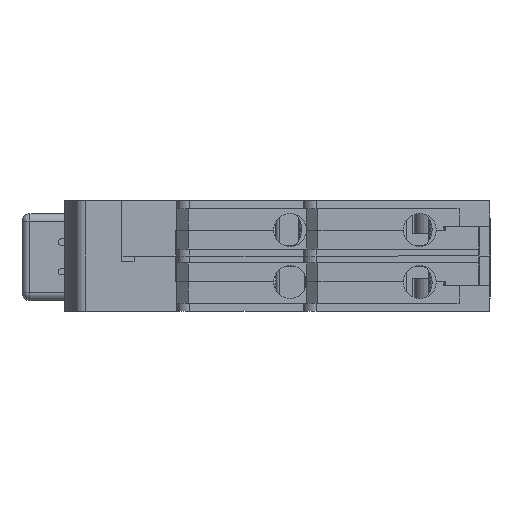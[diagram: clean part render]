
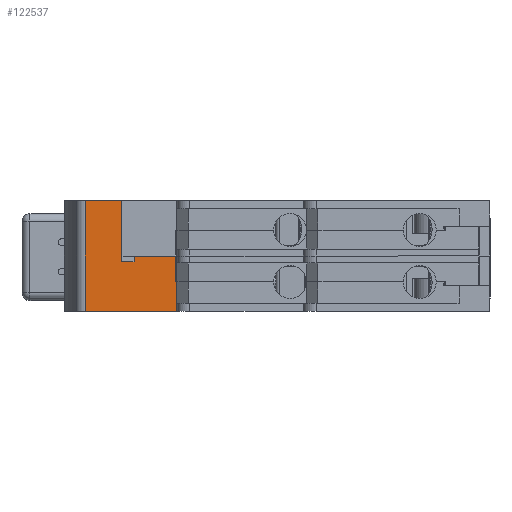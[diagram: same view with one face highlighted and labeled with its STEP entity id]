
A CAD part, left-side view. The second image highlights one B-rep face of the part: STEP entity #122537.
In plain terms, the highlighted planar face has unit normal (-1, 0, 0).
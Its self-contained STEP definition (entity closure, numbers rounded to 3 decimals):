
#210 = CARTESIAN_POINT ( 'NONE',  ( -22.5, 22.3, -4.1 ) ) ;
#6657 = EDGE_CURVE ( 'NONE', #36772, #6662, #123955, .T. ) ;
#6662 = VERTEX_POINT ( 'NONE', #123997 ) ;
#11594 = VERTEX_POINT ( 'NONE', #78171 ) ;
#11625 = VERTEX_POINT ( 'NONE', #78270 ) ;
#11770 = EDGE_CURVE ( 'NONE', #11594, #11625, #79286, .T. ) ;
#25260 = CARTESIAN_POINT ( 'NONE',  ( -22.5, 36.5, 8.75 ) ) ;
#25271 = CARTESIAN_POINT ( 'NONE',  ( -22.5, 30.79, 8.75 ) ) ;
#25272 = DIRECTION ( 'NONE',  ( 0., -1., 0. ) ) ;
#25273 = VECTOR ( 'NONE', #25272, 1000. ) ;
#25274 = CARTESIAN_POINT ( 'NONE',  ( -22.5, 37.49, 8.75 ) ) ;
#25275 = LINE ( 'NONE', #25274, #25273 ) ;
#36772 = VERTEX_POINT ( 'NONE', #210 ) ;
#78171 = CARTESIAN_POINT ( 'NONE',  ( -22.5, 28.79, 0. ) ) ;
#78270 = CARTESIAN_POINT ( 'NONE',  ( -22.5, 22.3, 0. ) ) ;
#79280 = DIRECTION ( 'NONE',  ( 0., -1., 0. ) ) ;
#79282 = VECTOR ( 'NONE', #79280, 1000. ) ;
#79284 = CARTESIAN_POINT ( 'NONE',  ( -22.5, 37.49, 0. ) ) ;
#79286 = LINE ( 'NONE', #79284, #79282 ) ;
#79422 = DIRECTION ( 'NONE',  ( 0., 0., -1. ) ) ;
#79424 = VECTOR ( 'NONE', #79422, 1000. ) ;
#79426 = CARTESIAN_POINT ( 'NONE',  ( -22.5, 36.5, -8.75 ) ) ;
#79427 = LINE ( 'NONE', #79426, #79424 ) ;
#79655 = CARTESIAN_POINT ( 'NONE',  ( -22.5, 28.79, -0.9 ) ) ;
#79656 = DIRECTION ( 'NONE',  ( 0., 0., 1. ) ) ;
#79657 = VECTOR ( 'NONE', #79656, 1000. ) ;
#79658 = CARTESIAN_POINT ( 'NONE',  ( -22.5, 28.79, -0.9 ) ) ;
#79660 = LINE ( 'NONE', #79658, #79657 ) ;
#79694 = DIRECTION ( 'NONE',  ( 0., -1., 0. ) ) ;
#79695 = VECTOR ( 'NONE', #79694, 1000. ) ;
#79696 = CARTESIAN_POINT ( 'NONE',  ( -22.5, 30.79, -0.9 ) ) ;
#79698 = LINE ( 'NONE', #79696, #79695 ) ;
#79702 = DIRECTION ( 'NONE',  ( 0., 0., -1. ) ) ;
#79703 = VECTOR ( 'NONE', #79702, 1000. ) ;
#79704 = CARTESIAN_POINT ( 'NONE',  ( -22.5, 22.3, 0. ) ) ;
#79706 = LINE ( 'NONE', #79704, #79703 ) ;
#79721 = DIRECTION ( 'NONE',  ( 0., 0., -1. ) ) ;
#79722 = VECTOR ( 'NONE', #79721, 1000. ) ;
#79724 = CARTESIAN_POINT ( 'NONE',  ( -22.5, 30.79, 8.75 ) ) ;
#79725 = LINE ( 'NONE', #79724, #79722 ) ;
#79752 = FACE_OUTER_BOUND ( 'NONE', #122543, .T. ) ;
#79757 = DIRECTION ( 'NONE',  ( 0., 0., -1. ) ) ;
#79758 = VECTOR ( 'NONE', #79757, 1000. ) ;
#79760 = CARTESIAN_POINT ( 'NONE',  ( -22.5, 22., -7.45 ) ) ;
#79761 = LINE ( 'NONE', #79760, #79758 ) ;
#79796 = CARTESIAN_POINT ( 'NONE',  ( -22.5, 30.79, -0.9 ) ) ;
#79819 = DIRECTION ( 'NONE',  ( 0., 0., -1. ) ) ;
#79821 = DIRECTION ( 'NONE',  ( 1., 0., 0. ) ) ;
#79822 = CARTESIAN_POINT ( 'NONE',  ( -22.5, 22., -7.45 ) ) ;
#79823 = AXIS2_PLACEMENT_3D ( 'NONE', #79822, #79821, #79819 ) ;
#79826 = PLANE ( 'NONE',  #79823 ) ;
#87493 = CARTESIAN_POINT ( 'NONE',  ( -22.5, 22., -8.75 ) ) ;
#87499 = CARTESIAN_POINT ( 'NONE',  ( -22.5, 36.5, -8.75 ) ) ;
#87525 = DIRECTION ( 'NONE',  ( 0., -1., 0. ) ) ;
#87526 = VECTOR ( 'NONE', #87525, 1000. ) ;
#87527 = CARTESIAN_POINT ( 'NONE',  ( -22.5, 22., -8.75 ) ) ;
#87529 = LINE ( 'NONE', #87527, #87526 ) ;
#105010 = EDGE_CURVE ( 'NONE', #105024, #105013, #25275, .T. ) ;
#105013 = VERTEX_POINT ( 'NONE', #25271 ) ;
#105024 = VERTEX_POINT ( 'NONE', #25260 ) ;
#122475 = ORIENTED_EDGE ( 'NONE', *, *, #122476, .T. ) ;
#122476 = EDGE_CURVE ( 'NONE', #105024, #123803, #79427, .T. ) ;
#122477 = ORIENTED_EDGE ( 'NONE', *, *, #105010, .F. ) ;
#122506 = ORIENTED_EDGE ( 'NONE', *, *, #6657, .F. ) ;
#122507 = ORIENTED_EDGE ( 'NONE', *, *, #122526, .F. ) ;
#122508 = EDGE_CURVE ( 'NONE', #122509, #11594, #79660, .T. ) ;
#122509 = VERTEX_POINT ( 'NONE', #79655 ) ;
#122510 = ORIENTED_EDGE ( 'NONE', *, *, #11770, .F. ) ;
#122511 = ORIENTED_EDGE ( 'NONE', *, *, #122508, .F. ) ;
#122512 = ORIENTED_EDGE ( 'NONE', *, *, #122533, .F. ) ;
#122516 = ORIENTED_EDGE ( 'NONE', *, *, #122517, .F. ) ;
#122517 = EDGE_CURVE ( 'NONE', #105013, #122530, #79725, .T. ) ;
#122526 = EDGE_CURVE ( 'NONE', #11625, #36772, #79706, .T. ) ;
#122528 = ORIENTED_EDGE ( 'NONE', *, *, #122529, .F. ) ;
#122529 = EDGE_CURVE ( 'NONE', #122530, #122509, #79698, .T. ) ;
#122530 = VERTEX_POINT ( 'NONE', #79796 ) ;
#122533 = EDGE_CURVE ( 'NONE', #6662, #123810, #79761, .T. ) ;
#122536 = ORIENTED_EDGE ( 'NONE', *, *, #123797, .T. ) ;
#122537 = ADVANCED_FACE ( 'NONE', ( #79752 ), #79826, .F. ) ;
#122543 = EDGE_LOOP ( 'NONE', ( #122477, #122475, #122536, #122512, #122506, #122507, #122510, #122511, #122528, #122516 ) ) ;
#123797 = EDGE_CURVE ( 'NONE', #123803, #123810, #87529, .T. ) ;
#123803 = VERTEX_POINT ( 'NONE', #87499 ) ;
#123810 = VERTEX_POINT ( 'NONE', #87493 ) ;
#123952 = DIRECTION ( 'NONE',  ( 0., -1., 0. ) ) ;
#123953 = VECTOR ( 'NONE', #123952, 1000. ) ;
#123954 = CARTESIAN_POINT ( 'NONE',  ( -22.5, 22.3, -4.1 ) ) ;
#123955 = LINE ( 'NONE', #123954, #123953 ) ;
#123997 = CARTESIAN_POINT ( 'NONE',  ( -22.5, 22., -4.1 ) ) ;
